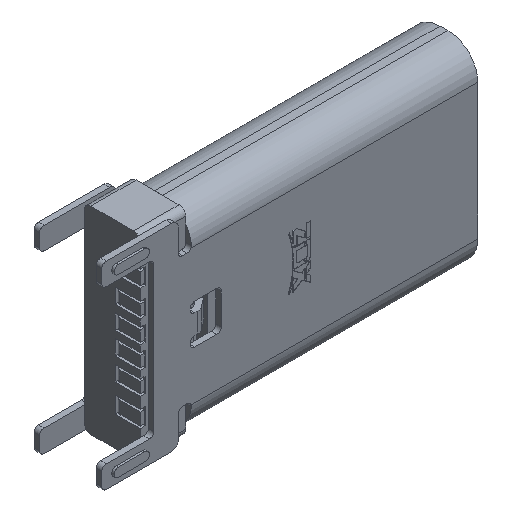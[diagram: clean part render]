
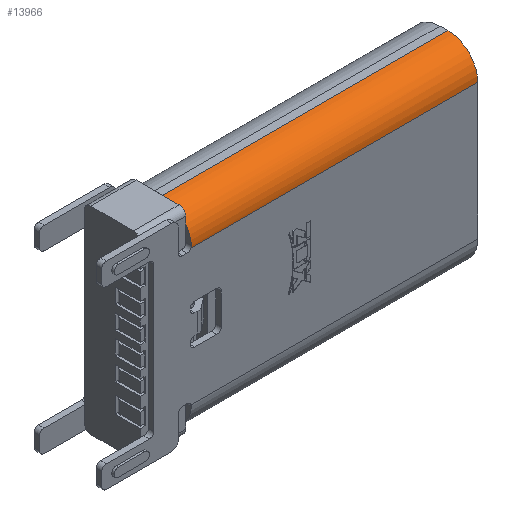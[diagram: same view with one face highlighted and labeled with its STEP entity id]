
A CAD part, isometric view. The second image highlights one B-rep face of the part: STEP entity #13966.
In plain terms, the highlighted cylindrical face has radius 1.35 mm (diameter 2.7 mm), a partial arc.
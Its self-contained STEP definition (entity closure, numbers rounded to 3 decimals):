
#364=CARTESIAN_POINT('',(16.,3.32,-2.43));
#365=DIRECTION('',(-1.,0.,0.));
#366=DIRECTION('',(0.,-1.,0.));
#367=AXIS2_PLACEMENT_3D('',#364,#365,#366);
#4031=CARTESIAN_POINT('',(3.05,3.32,-2.43));
#4032=DIRECTION('',(1.,0.,0.));
#4033=DIRECTION('',(0.,0.,1.));
#4034=AXIS2_PLACEMENT_3D('',#4031,#4032,#4033);
#4064=DIRECTION('',(-1.,0.,0.));
#4065=VECTOR('',#4064,12.95);
#4066=CARTESIAN_POINT('',(16.,3.32,-1.08));
#4067=LINE('',#4066,#4065);
#4068=CARTESIAN_POINT('',(3.033,1.97,-2.43));
#4069=CARTESIAN_POINT('',(3.037,1.97,-2.422));
#4070=CARTESIAN_POINT('',(3.043,1.97,-2.404));
#4071=CARTESIAN_POINT('',(3.049,1.971,-2.377));
#4072=CARTESIAN_POINT('',(3.05,1.972,-2.359));
#4073=CARTESIAN_POINT('',(3.05,1.972,-2.35));
#4143=DIRECTION('',(1.,0.,0.));
#4144=VECTOR('',#4143,12.967);
#4145=CARTESIAN_POINT('',(3.033,1.97,-2.43));
#4146=LINE('',#4145,#4144);
#4646=CARTESIAN_POINT('',(3.05,3.32,-2.43));
#4647=DIRECTION('',(1.,0.,0.));
#4648=DIRECTION('',(0.,-0.807,0.59));
#4649=AXIS2_PLACEMENT_3D('',#4646,#4647,#4648);
#6611=CARTESIAN_POINT('',(3.05,2.23,-1.634));
#6612=VERTEX_POINT('',#6611);
#6641=CARTESIAN_POINT('',(3.05,1.972,-2.35));
#6642=VERTEX_POINT('',#6641);
#7043=VERTEX_POINT('',#4068);
#7044=CARTESIAN_POINT('',(3.05,3.32,-1.08));
#7045=VERTEX_POINT('',#7044);
#7046=CARTESIAN_POINT('',(16.,3.32,-1.08));
#7047=VERTEX_POINT('',#7046);
#7048=CARTESIAN_POINT('',(16.,1.97,-2.43));
#7049=VERTEX_POINT('',#7048);
#13950=CARTESIAN_POINT('',(16.259,3.32,
-2.43));
#13951=DIRECTION('',(-1.,0.,0.));
#13952=DIRECTION('',(0.,0.,1.));
#13953=AXIS2_PLACEMENT_3D('',#13950,#13951,#13952);
#13954=CYLINDRICAL_SURFACE('',#13953,1.35);
#13956=ORIENTED_EDGE('',*,*,#13955,.F.);
#13958=ORIENTED_EDGE('',*,*,#13957,.T.);
#13960=ORIENTED_EDGE('',*,*,#13959,.F.);
#13961=ORIENTED_EDGE('',*,*,#13906,.F.);
#13962=ORIENTED_EDGE('',*,*,#13945,.F.);
#13963=ORIENTED_EDGE('',*,*,#8663,.F.);
#13964=EDGE_LOOP('',(#13956,#13958,#13960,#13961,#13962,#13963));
#13965=FACE_OUTER_BOUND('',#13964,.F.);
#368=CIRCLE('',#367,1.35);
#4035=CIRCLE('',#4034,1.35);
#4074=B_SPLINE_CURVE_WITH_KNOTS('',3,(#4068,#4069,#4070,#4071,#4072,#4073),
.UNSPECIFIED.,.F.,.F.,(4,1,1,4),(0.,0.333,0.667,1.),
.UNSPECIFIED.);
#4650=CIRCLE('',#4649,1.35);
#8663=EDGE_CURVE('',#7049,#7047,#368,.T.);
#13906=EDGE_CURVE('',#7045,#6612,#4035,.T.);
#13945=EDGE_CURVE('',#7047,#7045,#4067,.T.);
#13955=EDGE_CURVE('',#7043,#7049,#4146,.T.);
#13957=EDGE_CURVE('',#7043,#6642,#4074,.T.);
#13959=EDGE_CURVE('',#6612,#6642,#4650,.T.);
#13966=ADVANCED_FACE('',(#13965),#13954,.T.);
